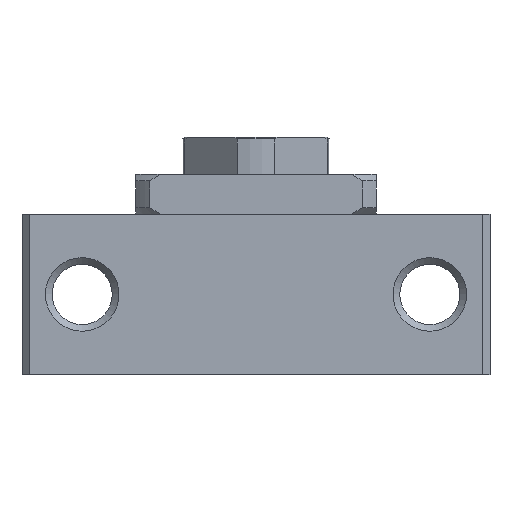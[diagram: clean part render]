
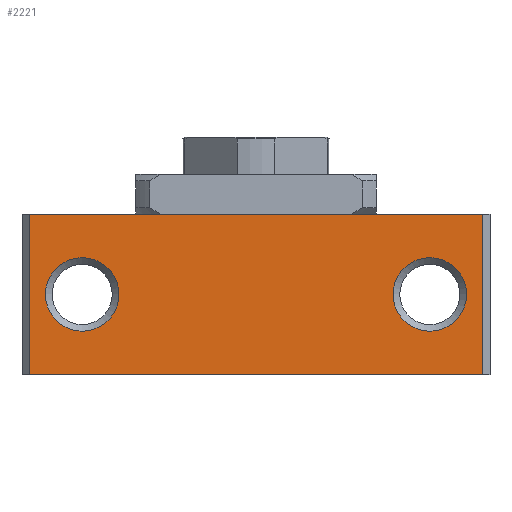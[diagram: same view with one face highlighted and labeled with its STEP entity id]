
A CAD part, front view. The second image highlights one B-rep face of the part: STEP entity #2221.
In plain terms, the highlighted planar face has unit normal (0, -1, 0).
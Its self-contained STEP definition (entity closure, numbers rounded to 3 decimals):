
#132=LINE('',#3353,#304);
#162=LINE('',#3432,#334);
#163=LINE('',#3438,#335);
#164=LINE('',#3440,#336);
#304=VECTOR('',#2687,1000.);
#334=VECTOR('',#2745,1000.);
#335=VECTOR('',#2752,1000.);
#336=VECTOR('',#2753,1000.);
#463=PLANE('',#2419);
#619=ORIENTED_EDGE('',*,*,#1223,.F.);
#620=ORIENTED_EDGE('',*,*,#1224,.F.);
#621=ORIENTED_EDGE('',*,*,#1225,.F.);
#622=ORIENTED_EDGE('',*,*,#1222,.F.);
#623=ORIENTED_EDGE('',*,*,#1185,.T.);
#624=ORIENTED_EDGE('',*,*,#1226,.T.);
#1185=EDGE_CURVE('',#1488,#1487,#132,.T.);
#1222=EDGE_CURVE('',#1488,#1522,#162,.T.);
#1223=EDGE_CURVE('',#1523,#1523,#1693,.T.);
#1224=EDGE_CURVE('',#1524,#1524,#1694,.T.);
#1225=EDGE_CURVE('',#1522,#1525,#163,.T.);
#1226=EDGE_CURVE('',#1487,#1525,#164,.T.);
#1487=VERTEX_POINT('',#3352);
#1488=VERTEX_POINT('',#3354);
#1522=VERTEX_POINT('',#3431);
#1523=VERTEX_POINT('',#3435);
#1524=VERTEX_POINT('',#3437);
#1525=VERTEX_POINT('',#3439);
#1693=CIRCLE('',#2420,5.5);
#1694=CIRCLE('',#2421,5.5);
#1791=EDGE_LOOP('',(#619));
#1792=EDGE_LOOP('',(#620));
#1793=EDGE_LOOP('',(#621,#622,#623,#624));
#1997=FACE_BOUND('',#1791,.T.);
#1998=FACE_BOUND('',#1792,.T.);
#1999=FACE_BOUND('',#1793,.T.);
#2221=ADVANCED_FACE('',(#1997,#1998,#1999),#463,.T.);
#2419=AXIS2_PLACEMENT_3D('',#3433,#2746,#2747);
#2420=AXIS2_PLACEMENT_3D('',#3434,#2748,#2749);
#2421=AXIS2_PLACEMENT_3D('',#3436,#2750,#2751);
#2687=DIRECTION('',(1.,0.,0.));
#2745=DIRECTION('',(0.,0.,1.));
#2746=DIRECTION('',(0.,-1.,0.));
#2747=DIRECTION('',(0.,0.,-1.));
#2748=DIRECTION('',(0.,-1.,0.));
#2749=DIRECTION('',(0.,0.,-1.));
#2750=DIRECTION('',(0.,-1.,0.));
#2751=DIRECTION('',(0.,0.,-1.));
#2752=DIRECTION('',(1.,0.,0.));
#2753=DIRECTION('',(0.,0.,1.));
#3352=CARTESIAN_POINT('',(33.92,-25.,-24.));
#3353=CARTESIAN_POINT('',(-33.92,-25.,-24.));
#3354=CARTESIAN_POINT('',(-33.92,-25.,-24.));
#3431=CARTESIAN_POINT('',(-33.92,-25.,0.));
#3432=CARTESIAN_POINT('',(-33.92,-25.,-24.));
#3433=CARTESIAN_POINT('',(-33.92,-25.,-24.));
#3434=CARTESIAN_POINT('',(26.,-25.,-12.));
#3435=CARTESIAN_POINT('',(26.,-25.,-17.5));
#3436=CARTESIAN_POINT('',(-26.,-25.,-12.));
#3437=CARTESIAN_POINT('',(-26.,-25.,-17.5));
#3438=CARTESIAN_POINT('',(-33.92,-25.,0.));
#3439=CARTESIAN_POINT('',(33.92,-25.,0.));
#3440=CARTESIAN_POINT('',(33.92,-25.,-24.));
